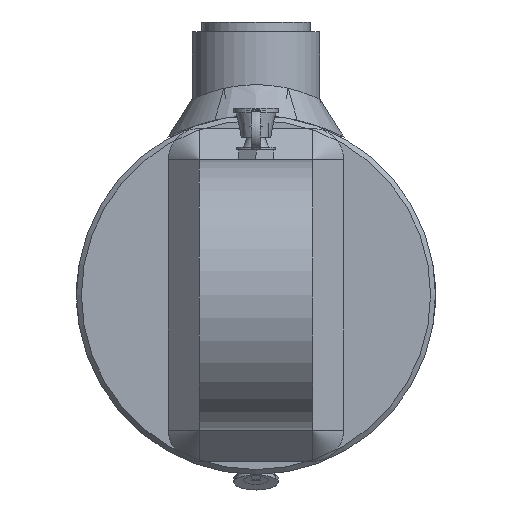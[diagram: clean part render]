
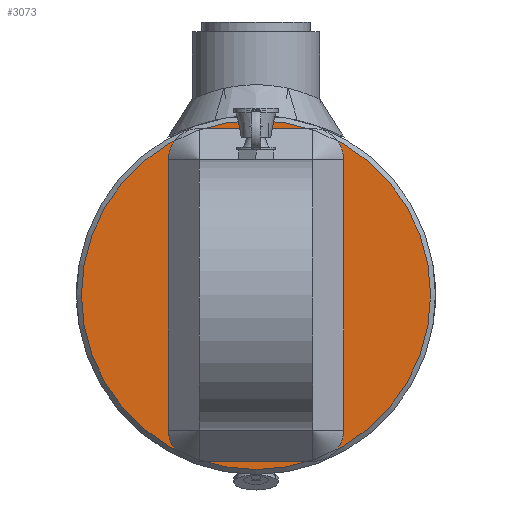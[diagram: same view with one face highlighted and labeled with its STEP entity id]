
A CAD part, left-side view. The second image highlights one B-rep face of the part: STEP entity #3073.
In plain terms, the highlighted planar face has unit normal (-1, 0, 0).
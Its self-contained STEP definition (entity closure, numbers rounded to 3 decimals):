
#3073 = ADVANCED_FACE( '', ( #7357 ), #7358, .T. );
#7357 = FACE_OUTER_BOUND( '', #9257, .T. );
#7358 = PLANE( '', #9258 );
#9257 = EDGE_LOOP( '', ( #10214 ) );
#9258 = AXIS2_PLACEMENT_3D( '', #10215, #10216, #10217 );
#10214 = ORIENTED_EDGE( '', *, *, #11429, .T. );
#10215 = CARTESIAN_POINT( '', ( -12., 0., 0. ) );
#10216 = DIRECTION( '', ( -1., 0., 0. ) );
#10217 = DIRECTION( '', ( 0., -1., 0. ) );
#11429 = EDGE_CURVE( '', #13983, #13983, #13984, .T. );
#13983 = VERTEX_POINT( '', #15241 );
#13984 = CIRCLE( '', #15242, 35.5 );
#15241 = CARTESIAN_POINT( '', ( -12., -35.5, 0. ) );
#15242 = AXIS2_PLACEMENT_3D( '', #15509, #15510, #15511 );
#15509 = CARTESIAN_POINT( '', ( -12., 0., 0. ) );
#15510 = DIRECTION( '', ( -1., 0., 0. ) );
#15511 = DIRECTION( '', ( 0., -1., 0. ) );
